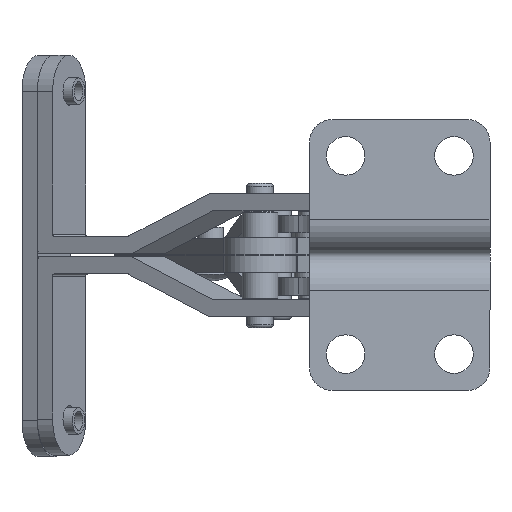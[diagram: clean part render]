
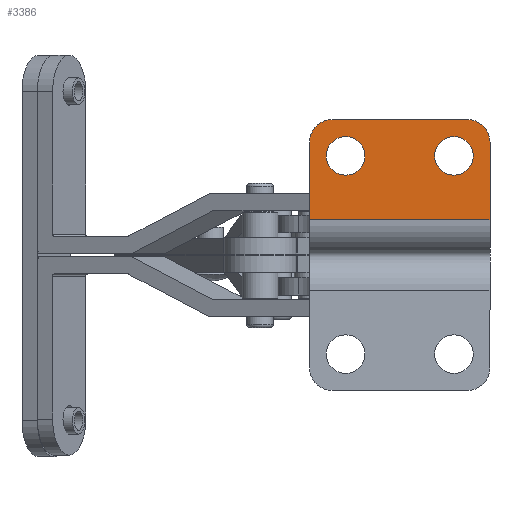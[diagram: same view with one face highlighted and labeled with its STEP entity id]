
A CAD part, front view. The second image highlights one B-rep face of the part: STEP entity #3386.
In plain terms, the highlighted planar face has unit normal (0, -1, 0).
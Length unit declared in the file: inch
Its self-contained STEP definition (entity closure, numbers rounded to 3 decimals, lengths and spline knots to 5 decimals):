
#170=PLANE('',#3696);
#355=LINE('',#6190,#557);
#382=LINE('',#6503,#584);
#386=LINE('',#6511,#588);
#387=LINE('',#6516,#589);
#557=VECTOR('',#4312,0.539);
#584=VECTOR('',#4393,0.938);
#588=VECTOR('',#4401,1.25);
#589=VECTOR('',#4410,0.539);
#734=FACE_BOUND('',#1137,.T.);
#735=FACE_BOUND('',#1138,.T.);
#896=FACE_OUTER_BOUND('',#1136,.T.);
#1136=EDGE_LOOP('',(#2736,#2737,#2738,#2739,#2740,#2741));
#1137=EDGE_LOOP('',(#2742));
#1138=EDGE_LOOP('',(#2743));
#1383=CIRCLE('',#3612,0.134);
#1385=CIRCLE('',#3615,0.134);
#1387=CIRCLE('',#3618,0.156);
#1389=CIRCLE('',#3621,0.156);
#1621=VERTEX_POINT('',#5785);
#1623=VERTEX_POINT('',#5790);
#1626=VERTEX_POINT('',#5796);
#1627=VERTEX_POINT('',#5798);
#1630=VERTEX_POINT('',#5805);
#1631=VERTEX_POINT('',#5807);
#1669=VERTEX_POINT('',#6189);
#1693=VERTEX_POINT('',#6510);
#1980=EDGE_CURVE('',#1621,#1621,#1383,.T.);
#1982=EDGE_CURVE('',#1623,#1623,#1385,.T.);
#1985=EDGE_CURVE('',#1627,#1626,#1387,.T.);
#1989=EDGE_CURVE('',#1631,#1630,#1389,.T.);
#2039=EDGE_CURVE('',#1627,#1669,#355,.T.);
#2080=EDGE_CURVE('',#1631,#1626,#382,.T.);
#2084=EDGE_CURVE('',#1693,#1669,#386,.T.);
#2087=EDGE_CURVE('',#1630,#1693,#387,.T.);
#2736=ORIENTED_EDGE('',*,*,#1989,.T.);
#2737=ORIENTED_EDGE('',*,*,#2087,.T.);
#2738=ORIENTED_EDGE('',*,*,#2084,.T.);
#2739=ORIENTED_EDGE('',*,*,#2039,.F.);
#2740=ORIENTED_EDGE('',*,*,#1985,.T.);
#2741=ORIENTED_EDGE('',*,*,#2080,.F.);
#2742=ORIENTED_EDGE('',*,*,#1982,.F.);
#2743=ORIENTED_EDGE('',*,*,#1980,.F.);
#3386=ADVANCED_FACE('',(#896,#734,#735),#170,.T.);
#3612=AXIS2_PLACEMENT_3D('',#5786,#4196,#4197);
#3615=AXIS2_PLACEMENT_3D('',#5791,#4202,#4203);
#3618=AXIS2_PLACEMENT_3D('',#5799,#4209,#4210);
#3621=AXIS2_PLACEMENT_3D('',#5808,#4217,#4218);
#3696=AXIS2_PLACEMENT_3D('',#6515,#4408,#4409);
#4196=DIRECTION('center_axis',(0.,-1.,0.));
#4197=DIRECTION('ref_axis',(1.,0.,0.));
#4202=DIRECTION('center_axis',(0.,-1.,0.));
#4203=DIRECTION('ref_axis',(1.,0.,0.));
#4209=DIRECTION('center_axis',(0.,-1.,0.));
#4210=DIRECTION('ref_axis',(-0.707,0.,0.707));
#4217=DIRECTION('center_axis',(0.,-1.,0.));
#4218=DIRECTION('ref_axis',(-0.707,0.,-0.707));
#4312=DIRECTION('',(1.,0.,0.));
#4393=DIRECTION('',(0.,0.,1.));
#4401=DIRECTION('',(0.,0.,1.));
#4408=DIRECTION('center_axis',(0.,-1.,0.));
#4409=DIRECTION('ref_axis',(0.,0.,-1.));
#4410=DIRECTION('',(1.,0.,0.));
#5785=CARTESIAN_POINT('',(-1.81785,0.,0.25));
#5786=CARTESIAN_POINT('Origin',(-1.68385,0.,0.25));
#5790=CARTESIAN_POINT('',(-1.81785,0.,1.));
#5791=CARTESIAN_POINT('Origin',(-1.68385,0.,1.));
#5796=CARTESIAN_POINT('',(-1.93485,0.,1.094));
#5798=CARTESIAN_POINT('',(-1.77885,0.,1.25));
#5799=CARTESIAN_POINT('Origin',(-1.77885,0.,1.094));
#5805=CARTESIAN_POINT('',(-1.77885,0.,0.));
#5807=CARTESIAN_POINT('',(-1.93485,0.,0.156));
#5808=CARTESIAN_POINT('Origin',(-1.77885,0.,0.156));
#6189=CARTESIAN_POINT('',(-1.23985,0.,1.25));
#6190=CARTESIAN_POINT('',(-1.77885,0.,1.25));
#6503=CARTESIAN_POINT('',(-1.93485,0.,0.156));
#6510=CARTESIAN_POINT('',(-1.23985,0.,0.));
#6511=CARTESIAN_POINT('',(-1.23985,0.,0.));
#6515=CARTESIAN_POINT('Origin',(-1.93485,0.,0.625));
#6516=CARTESIAN_POINT('',(-1.77885,0.,0.));
